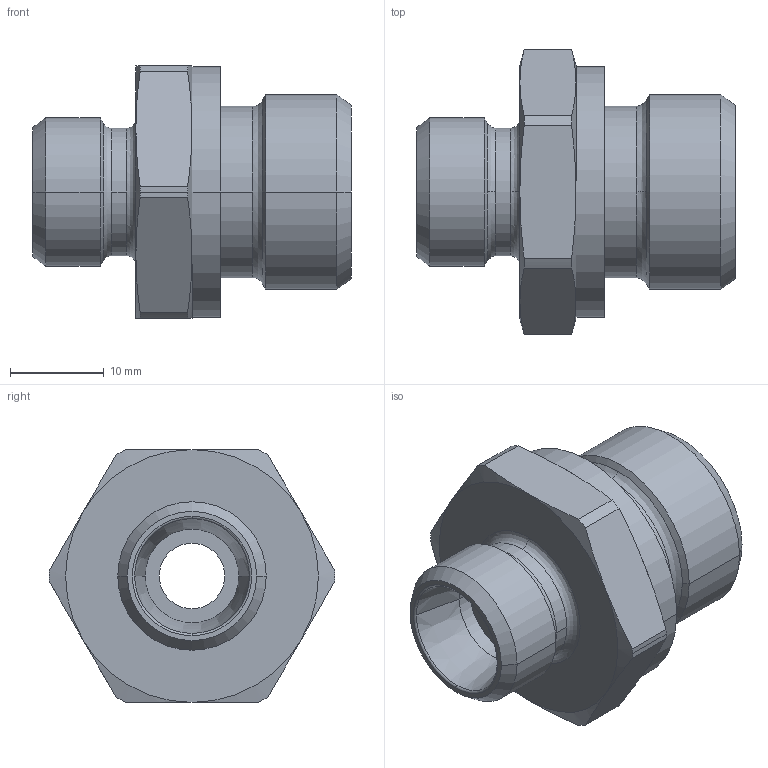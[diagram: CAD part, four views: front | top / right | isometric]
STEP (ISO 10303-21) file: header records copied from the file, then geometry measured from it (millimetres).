
FILE_DESCRIPTION((''),'2;1');
FILE_NAME('100530.stp','2007-10-30T14:36:03',(''),(''),'AutoCAD STEP 2000i','AutoCAD 2000i',', , ');
FILE_SCHEMA(('CONFIG_CONTROL_DESIGN'));
Length unit declared in the file: millimetre
Products named in the file (2): 100530.0; CHIAVE SMUSSATA#0
Assembly tree (1 placements, depth 2):
  100530.0
    CHIAVE SMUSSATA#0
Bounding box: 34 x 30.5 x 27 mm (x, y, z)
Volume: 9776.9 mm3; surface area: 4371 mm2
Topology: 1 solids, 1 shells, 75 faces, 185 edges, 117 vertices
Faces by surface type: cylinder 24, cone 24, plane 13, bspline 12, torus 2
Entity records: 2835 total; most frequent: CARTESIAN_POINT 955, DIRECTION 410, ORIENTED_EDGE 370, EDGE_CURVE 185, AXIS2_PLACEMENT_3D 184, CIRCLE 119, VERTEX_POINT 117, EDGE_LOOP 82
